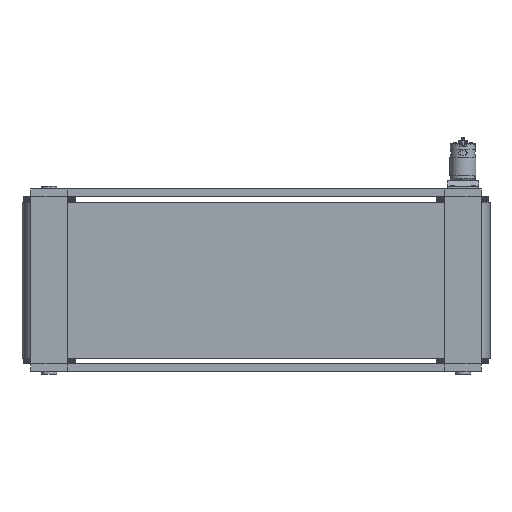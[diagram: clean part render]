
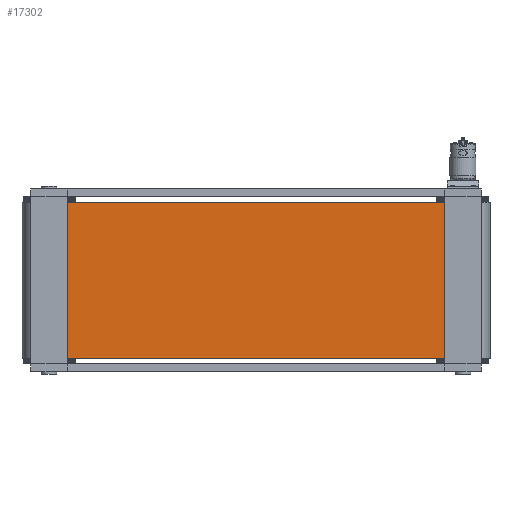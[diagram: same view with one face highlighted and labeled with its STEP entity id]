
A CAD part, front view. The second image highlights one B-rep face of the part: STEP entity #17302.
In plain terms, the highlighted planar face has unit normal (0, -1, 0) as drawn and (-0.085, -0.996, 0) by its records, which use the part's own axes.
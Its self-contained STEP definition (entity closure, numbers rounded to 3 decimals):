
#913=PLANE('',#18536);
#1350=FACE_OUTER_BOUND('',#2302,.T.);
#2302=EDGE_LOOP('',(#11691,#11692,#11693,#11694));
#4380=LINE('',#25999,#5849);
#4381=LINE('',#26003,#5850);
#4388=LINE('',#26021,#5857);
#4390=LINE('',#26026,#5859);
#5849=VECTOR('',#20536,10.);
#5850=VECTOR('',#20541,10.);
#5857=VECTOR('',#20558,10.);
#5859=VECTOR('',#20564,10.);
#7321=VERTEX_POINT('',#25996);
#7322=VERTEX_POINT('',#25998);
#7323=VERTEX_POINT('',#26002);
#7329=VERTEX_POINT('',#26018);
#9066=EDGE_CURVE('',#7322,#7321,#4380,.T.);
#9068=EDGE_CURVE('',#7323,#7321,#4381,.T.);
#9078=EDGE_CURVE('',#7329,#7322,#4388,.T.);
#9081=EDGE_CURVE('',#7329,#7323,#4390,.T.);
#11691=ORIENTED_EDGE('',*,*,#9066,.T.);
#11692=ORIENTED_EDGE('',*,*,#9068,.F.);
#11693=ORIENTED_EDGE('',*,*,#9081,.F.);
#11694=ORIENTED_EDGE('',*,*,#9078,.T.);
#17302=ADVANCED_FACE('',(#1350),#913,.T.);
#18536=AXIS2_PLACEMENT_3D('',#26025,#20562,#20563);
#20536=DIRECTION('',(0.,0.,-1.));
#20541=DIRECTION('',(-0.996,0.085,0.));
#20558=DIRECTION('',(-0.996,0.085,0.));
#20562=DIRECTION('center_axis',(-0.085,-0.996,
0.));
#20563=DIRECTION('ref_axis',(0.,0.,-1.));
#20564=DIRECTION('',(0.,0.,-1.));
#25996=CARTESIAN_POINT('',(-104.427,-51.689,-150.));
#25998=CARTESIAN_POINT('',(-104.427,-51.689,150.));
#25999=CARTESIAN_POINT('',(-104.427,-51.689,-150.));
#26002=CARTESIAN_POINT('',(686.428,-119.418,-150.));
#26003=CARTESIAN_POINT('',(686.428,-119.418,-150.));
#26018=CARTESIAN_POINT('',(686.428,-119.418,150.));
#26021=CARTESIAN_POINT('',(686.428,-119.418,150.));
#26025=CARTESIAN_POINT('Origin',(686.428,-119.418,150.));
#26026=CARTESIAN_POINT('',(686.428,-119.418,-150.));
